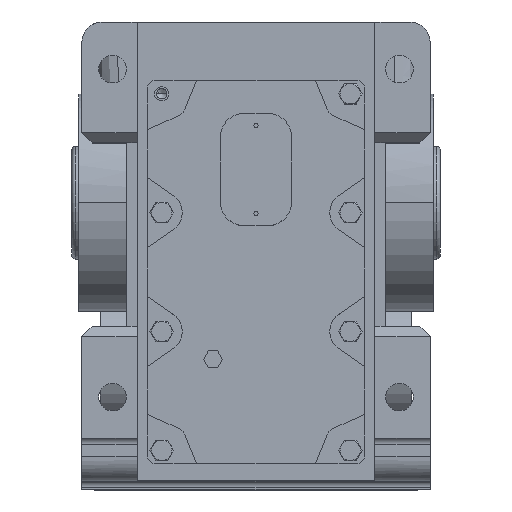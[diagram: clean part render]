
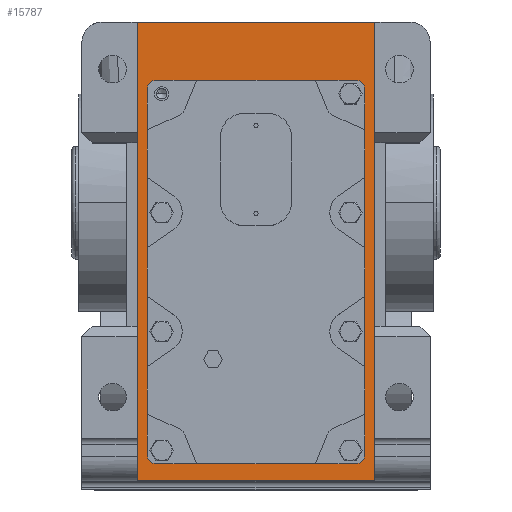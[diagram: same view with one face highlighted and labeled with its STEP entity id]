
A CAD part, top view. The second image highlights one B-rep face of the part: STEP entity #15787.
In plain terms, the highlighted planar face has unit normal (0, 0, 1).
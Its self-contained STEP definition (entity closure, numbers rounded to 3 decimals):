
#1318 = AXIS2_PLACEMENT_3D ( 'NONE', #36021, #36022, #36023 ) ;
#1319 = AXIS2_PLACEMENT_3D ( 'NONE', #36030, #36031, #36032 ) ;
#1320 = AXIS2_PLACEMENT_3D ( 'NONE', #36039, #36040, #36041 ) ;
#1321 = AXIS2_PLACEMENT_3D ( 'NONE', #36048, #36049, #36050 ) ;
#3173 = VECTOR ( 'NONE', #36038, 1000. ) ;
#3175 = LINE ( 'NONE', #36037, #3173 ) ;
#3177 = CIRCLE ( 'NONE', #1321, 4. ) ;
#3180 = VECTOR ( 'NONE', #36029, 1000. ) ;
#3182 = LINE ( 'NONE', #36028, #3180 ) ;
#3184 = CIRCLE ( 'NONE', #1320, 4. ) ;
#3187 = VECTOR ( 'NONE', #36018, 1000. ) ;
#3189 = LINE ( 'NONE', #36019, #3187 ) ;
#3191 = CIRCLE ( 'NONE', #1319, 4. ) ;
#3194 = VECTOR ( 'NONE', #36003, 1000. ) ;
#3198 = CIRCLE ( 'NONE', #1318, 4. ) ;
#3212 = LINE ( 'NONE', #36020, #3194 ) ;
#4135 = CARTESIAN_POINT ( 'NONE',  ( -58., -135.832, 74. ) ) ;
#4139 = PLANE ( 'NONE',  #5935 ) ;
#4144 = DIRECTION ( 'NONE',  ( 0., 0., 1. ) ) ;
#4145 = DIRECTION ( 'NONE',  ( 1., 0., 0. ) ) ;
#5935 = AXIS2_PLACEMENT_3D ( 'NONE', #4135, #4144, #4145 ) ;
#7045 = ORIENTED_EDGE ( 'NONE', *, *, #37468, .F. ) ;
#9199 = VECTOR ( 'NONE', #22039, 1000. ) ;
#9203 = VECTOR ( 'NONE', #22037, 1000. ) ;
#9204 = LINE ( 'NONE', #22038, #9199 ) ;
#9205 = VECTOR ( 'NONE', #22035, 1000. ) ;
#9207 = LINE ( 'NONE', #22036, #9203 ) ;
#9211 = LINE ( 'NONE', #22034, #9205 ) ;
#9212 = VECTOR ( 'NONE', #22032, 1000. ) ;
#9215 = LINE ( 'NONE', #22030, #9212 ) ;
#11208 = CARTESIAN_POINT ( 'NONE',  ( 49., 59.5, 74. ) ) ;
#11333 = CARTESIAN_POINT ( 'NONE',  ( 58., 88., 74. ) ) ;
#11459 = FACE_OUTER_BOUND ( 'NONE', #21710, .T. ) ;
#11468 = FACE_BOUND ( 'NONE', #21288, .T. ) ;
#11474 = CARTESIAN_POINT ( 'NONE',  ( -49., 59.5, 74. ) ) ;
#11780 = CARTESIAN_POINT ( 'NONE',  ( 53., -123.5, 74. ) ) ;
#11795 = CARTESIAN_POINT ( 'NONE',  ( -58., 88., 74. ) ) ;
#15787 = ADVANCED_FACE ( 'NONE', ( #11468, #11459 ), #4139, .T. ) ;
#19261 = EDGE_CURVE ( 'NONE', #36748, #37042, #9215, .T. ) ;
#19264 = EDGE_CURVE ( 'NONE', #36394, #36748, #9211, .T. ) ;
#19267 = EDGE_CURVE ( 'NONE', #37042, #33936, #9207, .T. ) ;
#19269 = EDGE_CURVE ( 'NONE', #33936, #36394, #9204, .T. ) ;
#21288 = EDGE_LOOP ( 'NONE', ( #7045, #33666, #33658, #33575, #33566, #33565, #33562, #33577 ) ) ;
#21710 = EDGE_LOOP ( 'NONE', ( #33574, #32979, #33580, #33583 ) ) ;
#22030 = CARTESIAN_POINT ( 'NONE',  ( -58., -135.832, 74. ) ) ;
#22032 = DIRECTION ( 'NONE',  ( 1., 0., 0. ) ) ;
#22034 = CARTESIAN_POINT ( 'NONE',  ( -58., 88., 74. ) ) ;
#22035 = DIRECTION ( 'NONE',  ( 0., -1., 0. ) ) ;
#22036 = CARTESIAN_POINT ( 'NONE',  ( 58., -135.832, 74. ) ) ;
#22037 = DIRECTION ( 'NONE',  ( 0., 1., 0. ) ) ;
#22038 = CARTESIAN_POINT ( 'NONE',  ( 58., 88., 74. ) ) ;
#22039 = DIRECTION ( 'NONE',  ( -1., 0., 0. ) ) ;
#25988 = CARTESIAN_POINT ( 'NONE',  ( -49., -127.5, 74. ) ) ;
#32979 = ORIENTED_EDGE ( 'NONE', *, *, #19261, .T. ) ;
#33562 = ORIENTED_EDGE ( 'NONE', *, *, #37456, .F. ) ;
#33565 = ORIENTED_EDGE ( 'NONE', *, *, #37459, .T. ) ;
#33566 = ORIENTED_EDGE ( 'NONE', *, *, #37460, .F. ) ;
#33574 = ORIENTED_EDGE ( 'NONE', *, *, #19264, .T. ) ;
#33575 = ORIENTED_EDGE ( 'NONE', *, *, #37463, .T. ) ;
#33577 = ORIENTED_EDGE ( 'NONE', *, *, #37455, .T. ) ;
#33580 = ORIENTED_EDGE ( 'NONE', *, *, #19267, .T. ) ;
#33583 = ORIENTED_EDGE ( 'NONE', *, *, #19269, .T. ) ;
#33658 = ORIENTED_EDGE ( 'NONE', *, *, #37464, .F. ) ;
#33666 = ORIENTED_EDGE ( 'NONE', *, *, #37467, .T. ) ;
#33884 = VERTEX_POINT ( 'NONE', #11208 ) ;
#33936 = VERTEX_POINT ( 'NONE', #11333 ) ;
#35185 = CARTESIAN_POINT ( 'NONE',  ( -58., -135.832, 74. ) ) ;
#35204 = CARTESIAN_POINT ( 'NONE',  ( -53., -123.5, 74. ) ) ;
#35479 = CARTESIAN_POINT ( 'NONE',  ( 58., -135.832, 74. ) ) ;
#35621 = CARTESIAN_POINT ( 'NONE',  ( 49., -127.5, 74. ) ) ;
#35664 = CARTESIAN_POINT ( 'NONE',  ( -53., 55.5, 74. ) ) ;
#35796 = CARTESIAN_POINT ( 'NONE',  ( 53., 55.5, 74. ) ) ;
#36003 = DIRECTION ( 'NONE',  ( 1., 0., 0. ) ) ;
#36018 = DIRECTION ( 'NONE',  ( 0., 1., 0. ) ) ;
#36019 = CARTESIAN_POINT ( 'NONE',  ( 53., -34., 74. ) ) ;
#36020 = CARTESIAN_POINT ( 'NONE',  ( 53., -127.5, 74. ) ) ;
#36021 = CARTESIAN_POINT ( 'NONE',  ( -49., -123.5, 74. ) ) ;
#36022 = DIRECTION ( 'NONE',  ( 0., 0., -1. ) ) ;
#36023 = DIRECTION ( 'NONE',  ( 0., -1., 0. ) ) ;
#36028 = CARTESIAN_POINT ( 'NONE',  ( 53., 59.5, 74. ) ) ;
#36029 = DIRECTION ( 'NONE',  ( -1., 0., 0. ) ) ;
#36030 = CARTESIAN_POINT ( 'NONE',  ( 49., -123.5, 74. ) ) ;
#36031 = DIRECTION ( 'NONE',  ( 0., 0., -1. ) ) ;
#36032 = DIRECTION ( 'NONE',  ( 0., -1., 0. ) ) ;
#36037 = CARTESIAN_POINT ( 'NONE',  ( -53., -127.5, 74. ) ) ;
#36038 = DIRECTION ( 'NONE',  ( 0., -1., 0. ) ) ;
#36039 = CARTESIAN_POINT ( 'NONE',  ( 49., 55.5, 74. ) ) ;
#36040 = DIRECTION ( 'NONE',  ( 0., 0., -1. ) ) ;
#36041 = DIRECTION ( 'NONE',  ( 0., -1., 0. ) ) ;
#36048 = CARTESIAN_POINT ( 'NONE',  ( -49., 55.5, 74. ) ) ;
#36049 = DIRECTION ( 'NONE',  ( 0., 0., -1. ) ) ;
#36050 = DIRECTION ( 'NONE',  ( 0., -1., 0. ) ) ;
#36272 = VERTEX_POINT ( 'NONE', #11474 ) ;
#36388 = VERTEX_POINT ( 'NONE', #11780 ) ;
#36394 = VERTEX_POINT ( 'NONE', #11795 ) ;
#36748 = VERTEX_POINT ( 'NONE', #35185 ) ;
#36767 = VERTEX_POINT ( 'NONE', #35204 ) ;
#37042 = VERTEX_POINT ( 'NONE', #35479 ) ;
#37184 = VERTEX_POINT ( 'NONE', #35621 ) ;
#37227 = VERTEX_POINT ( 'NONE', #35664 ) ;
#37359 = VERTEX_POINT ( 'NONE', #35796 ) ;
#37455 = EDGE_CURVE ( 'NONE', #38395, #36767, #3198, .T. ) ;
#37456 = EDGE_CURVE ( 'NONE', #38395, #37184, #3212, .T. ) ;
#37459 = EDGE_CURVE ( 'NONE', #36388, #37184, #3191, .T. ) ;
#37460 = EDGE_CURVE ( 'NONE', #36388, #37359, #3189, .T. ) ;
#37463 = EDGE_CURVE ( 'NONE', #33884, #37359, #3184, .T. ) ;
#37464 = EDGE_CURVE ( 'NONE', #33884, #36272, #3182, .T. ) ;
#37467 = EDGE_CURVE ( 'NONE', #37227, #36272, #3177, .T. ) ;
#37468 = EDGE_CURVE ( 'NONE', #37227, #36767, #3175, .T. ) ;
#38395 = VERTEX_POINT ( 'NONE', #25988 ) ;
